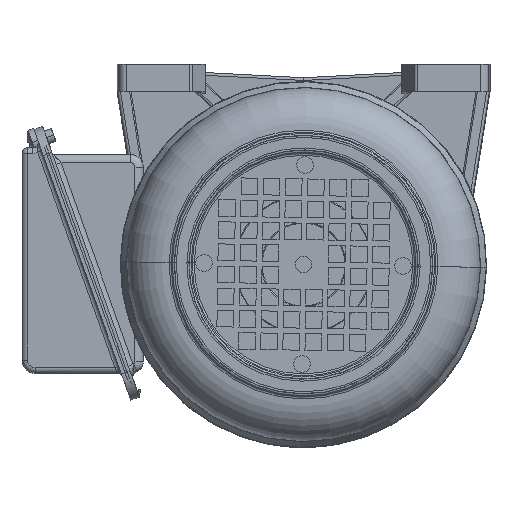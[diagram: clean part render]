
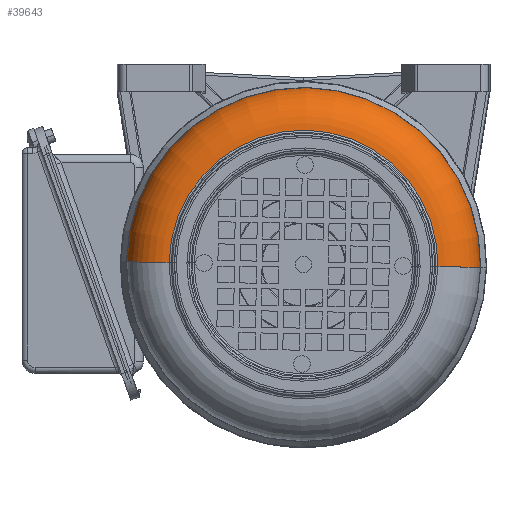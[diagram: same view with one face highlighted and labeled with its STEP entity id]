
A CAD part, front view. The second image highlights one B-rep face of the part: STEP entity #39643.
In plain terms, the highlighted toroidal (fillet/blend) face has major radius 48.673 mm and minor radius 15.331 mm.
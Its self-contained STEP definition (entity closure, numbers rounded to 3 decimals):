
#787 = AXIS2_PLACEMENT_3D ( 'NONE', #46527, #4583, #23278 ) ;
#2424 = CARTESIAN_POINT ( 'NONE',  ( -15.325, 0., -48.673 ) ) ;
#3739 = AXIS2_PLACEMENT_3D ( 'NONE', #2424, #21112, #39761 ) ;
#4583 = DIRECTION ( 'NONE',  ( -1., 0., 0. ) ) ;
#6253 = DIRECTION ( 'NONE',  ( 0., -1., 0. ) ) ;
#7960 = CARTESIAN_POINT ( 'NONE',  ( -15., 0., -64. ) ) ;
#8672 = VERTEX_POINT ( 'NONE', #48920 ) ;
#12578 = DIRECTION ( 'NONE',  ( -1., 0., 0. ) ) ;
#14178 = DIRECTION ( 'NONE',  ( 0., 0., 1. ) ) ;
#17075 = CIRCLE ( 'NONE', #51303, 64. ) ;
#17373 = AXIS2_PLACEMENT_3D ( 'NONE', #37424, #56110, #14178 ) ;
#21112 = DIRECTION ( 'NONE',  ( 0., 1., 0. ) ) ;
#21448 = EDGE_CURVE ( 'NONE', #8672, #32538, #17075, .T. ) ;
#21591 = VERTEX_POINT ( 'NONE', #56028 ) ;
#23278 = DIRECTION ( 'NONE',  ( 0., 0., 1. ) ) ;
#24188 = ORIENTED_EDGE ( 'NONE', *, *, #39408, .T. ) ;
#24958 = DIRECTION ( 'NONE',  ( 0., 0., -1. ) ) ;
#27186 = TOROIDAL_SURFACE ( 'NONE', #787, 48.673, 15.331 ) ;
#27361 = AXIS2_PLACEMENT_3D ( 'NONE', #48208, #6253, #24958 ) ;
#29258 = EDGE_LOOP ( 'NONE', ( #24188, #29891, #50937, #49311 ) ) ;
#29672 = CARTESIAN_POINT ( 'NONE',  ( 0.006, 0., -48.659 ) ) ;
#29891 = ORIENTED_EDGE ( 'NONE', *, *, #34475, .T. ) ;
#30164 = CIRCLE ( 'NONE', #3739, 15.331 ) ;
#31245 = DIRECTION ( 'NONE',  ( 0., 0., 1. ) ) ;
#32538 = VERTEX_POINT ( 'NONE', #7960 ) ;
#34475 = EDGE_CURVE ( 'NONE', #50422, #32538, #30164, .T. ) ;
#37424 = CARTESIAN_POINT ( 'NONE',  ( 0.006, 0., 0. ) ) ;
#39408 = EDGE_CURVE ( 'NONE', #21591, #50422, #43784, .T. ) ;
#39643 = ADVANCED_FACE ( 'NONE', ( #51119 ), #27186, .T. ) ;
#39761 = DIRECTION ( 'NONE',  ( 0., 0., 1. ) ) ;
#43784 = CIRCLE ( 'NONE', #17373, 48.659 ) ;
#46527 = CARTESIAN_POINT ( 'NONE',  ( -15.325, 0., 0. ) ) ;
#48208 = CARTESIAN_POINT ( 'NONE',  ( -15.325, 0., 48.673 ) ) ;
#48920 = CARTESIAN_POINT ( 'NONE',  ( -15., 0., 64. ) ) ;
#49311 = ORIENTED_EDGE ( 'NONE', *, *, #53574, .F. ) ;
#50422 = VERTEX_POINT ( 'NONE', #29672 ) ;
#50937 = ORIENTED_EDGE ( 'NONE', *, *, #21448, .F. ) ;
#51119 = FACE_OUTER_BOUND ( 'NONE', #29258, .T. ) ;
#51303 = AXIS2_PLACEMENT_3D ( 'NONE', #54507, #12578, #31245 ) ;
#53574 = EDGE_CURVE ( 'NONE', #21591, #8672, #53746, .T. ) ;
#53746 = CIRCLE ( 'NONE', #27361, 15.331 ) ;
#54507 = CARTESIAN_POINT ( 'NONE',  ( -15., 0., 0. ) ) ;
#56028 = CARTESIAN_POINT ( 'NONE',  ( 0.006, 0., 48.659 ) ) ;
#56110 = DIRECTION ( 'NONE',  ( -1., 0., 0. ) ) ;
